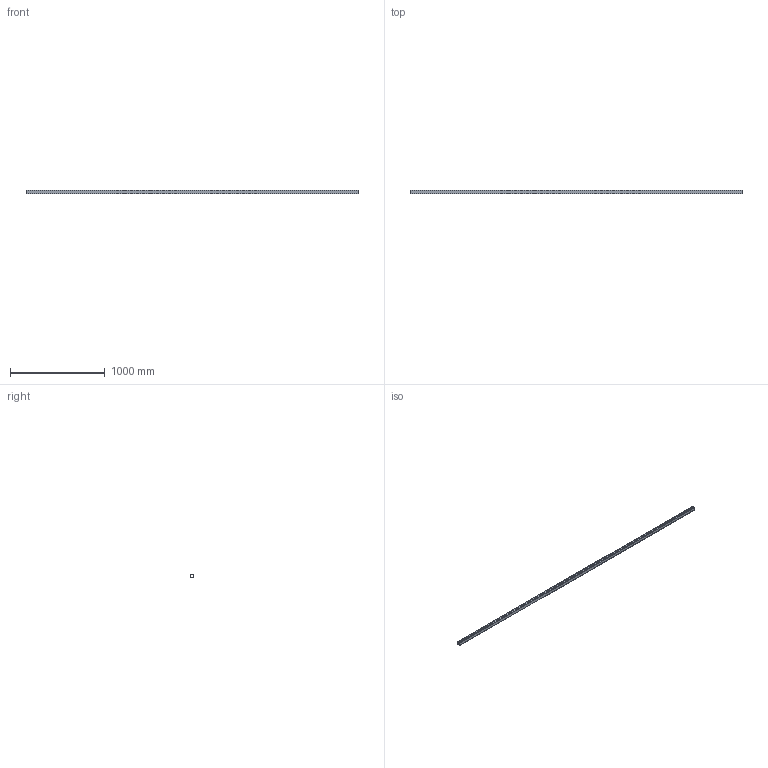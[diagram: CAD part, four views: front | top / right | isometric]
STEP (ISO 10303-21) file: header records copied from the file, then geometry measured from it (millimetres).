
FILE_DESCRIPTION(('STEP AP242'),'1');
FILE_NAME('OPO_65.081.03_volu_3d.stp','2026-01-30T20:48:47',(' '),(' '),'Spatial InterOp 3D',' ',' ');
FILE_SCHEMA(('AP242_MANAGED_MODEL_BASED_3D_ENGINEERING_MIM_LF {1 0 10303 442 1 1 4}'));
Length unit declared in the file: millimetre
Products named in the file (1): 1
Bounding box: 3500 x 33 x 33 mm (x, y, z)
Volume: 998156.2 mm3; surface area: 814008 mm2
Topology: 1 solids, 1 shells, 76 faces, 208 edges, 138 vertices
Faces by surface type: plane 56, cylinder 20
Entity records: 3020 total; most frequent: CARTESIAN_POINT 423, ORIENTED_EDGE 416, DIRECTION 402, EDGE_CURVE 208, LINE 168, VECTOR 168, VERTEX_POINT 138, AXIS2_PLACEMENT_3D 117
